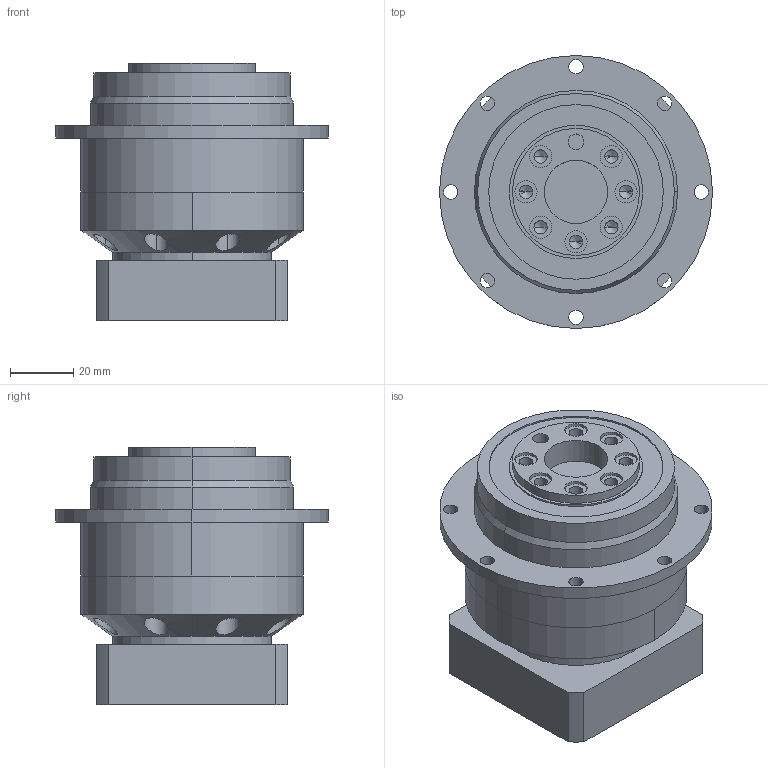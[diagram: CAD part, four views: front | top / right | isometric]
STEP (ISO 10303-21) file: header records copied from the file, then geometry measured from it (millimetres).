
FILE_DESCRIPTION (( 'STEP AP203' ), '1' );
FILE_NAME ('PLX060-L1-14-50-70M5.STEP', '2026-10-07T06:05:35', ( 'Windows User' ), ( 'P R C' ), 'SwSTEP 2.0', 'SolidWorks 2016', '' );
FILE_SCHEMA (( 'CONFIG_CONTROL_DESIGN' ));
Length unit declared in the file: millimetre
Products named in the file (6): PLX060-L1-14-50-70M5; PLX060 内齿圈_一级内齿圈; PLX060狟屳啣; 囀鞠褒蹟佪-M5℅16; PLX060 窣諉啣-M5; 粣創-61805 25x37x7
Assembly tree (5 placements, depth 2):
  PLX060-L1-14-50-70M5
    PLX060 内齿圈_一级内齿圈
    PLX060狟屳啣
    囀鞠褒蹟佪-M5℅16
    PLX060 窣諉啣-M5
    粣創-61805 25x37x7
Bounding box: 86 x 86 x 81 mm (x, y, z)
Volume: 249279.2 mm3; surface area: 63494.9 mm2
Topology: 5 solids, 5 shells, 1176 faces, 3198 edges, 2107 vertices
Faces by surface type: plane 613, bspline 312, cylinder 223, cone 28
Entity records: 49288 total; most frequent: CARTESIAN_POINT 20750, ORIENTED_EDGE 6352, DIRECTION 4878, EDGE_CURVE 3176, VERTEX_POINT 2107, VECTOR 1716, LINE 1716, AXIS2_PLACEMENT_3D 1581
